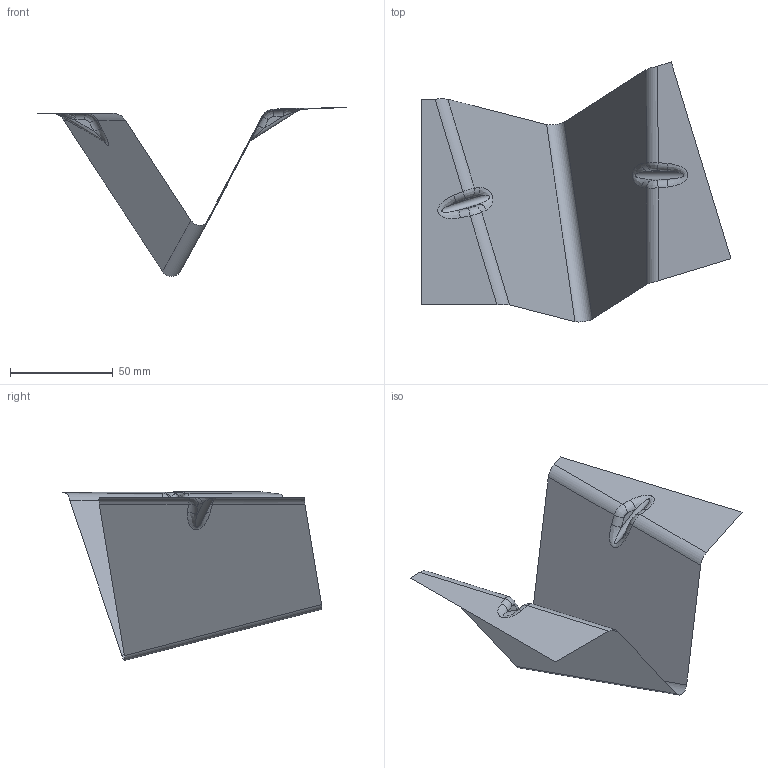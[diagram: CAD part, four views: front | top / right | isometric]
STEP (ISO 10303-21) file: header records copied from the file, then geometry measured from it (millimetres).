
FILE_DESCRIPTION(('CATIA V5 STEP Exchange'),'2;1');
FILE_NAME('C:\_Andres\UNIVERSIDAD\IQS\ASIGNATURAS\DAO\EXF\EXF-16172c\2inicio\dAndrea_Torrejon_Ej03_v8.stp','2017-03-05T19:32:07+00:00',('none'),('none'),'CATIA Version 5-6 Release 2014 SP1 HF18','CATIA V5 STEP AP203','none');
FILE_SCHEMA(('CONFIG_CONTROL_DESIGN'));
Length unit declared in the file: millimetre
Products named in the file (1): dAndrea_Torrejon_Ej03_v8
Bounding box: 150.68 x 126.36 x 82.17 mm (x, y, z)
Surface area: 21864.6 mm2 (no closed solid volume)
Topology: 0 solids, 1 shells, 31 faces, 78 edges, 48 vertices
Faces by surface type: cylinder 15, plane 8, bspline 8
Entity records: 2437 total; most frequent: CARTESIAN_POINT 1764, ORIENTED_EDGE 140, DIRECTION 90, EDGE_CURVE 78, VERTEX_POINT 48, VECTOR 40, LINE 40, ADVANCED_FACE 31
